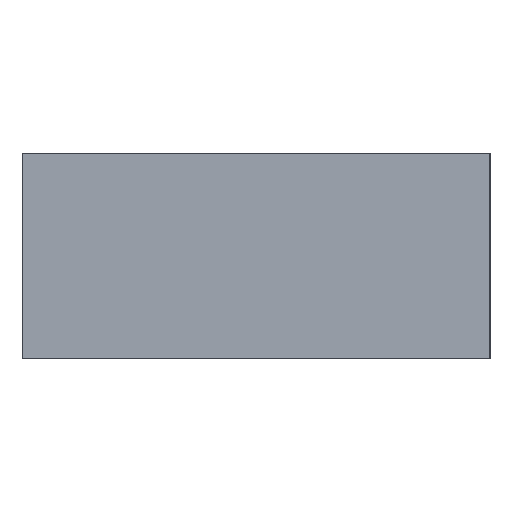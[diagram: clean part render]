
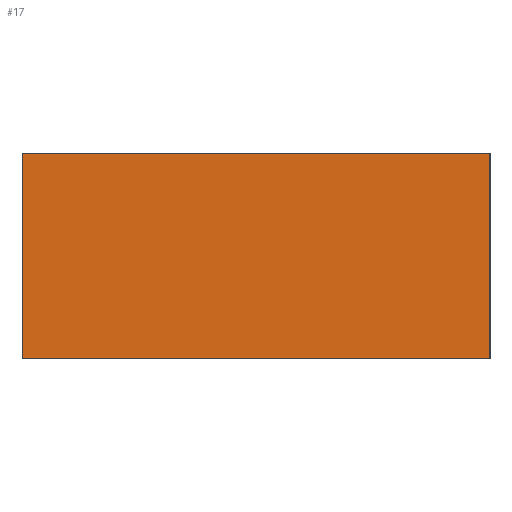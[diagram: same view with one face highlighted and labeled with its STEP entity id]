
A CAD part, left-side view. The second image highlights one B-rep face of the part: STEP entity #17.
In plain terms, the highlighted planar face has unit normal (-1, 0, 0).
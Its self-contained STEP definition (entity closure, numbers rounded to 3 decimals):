
#17 = ADVANCED_FACE('',(#18),#52,.F.);
#18 = FACE_BOUND('',#19,.F.);
#19 = EDGE_LOOP('',(#20,#30,#38,#46));
#20 = ORIENTED_EDGE('',*,*,#21,.F.);
#21 = EDGE_CURVE('',#22,#24,#26,.T.);
#22 = VERTEX_POINT('',#23);
#23 = CARTESIAN_POINT('',(47.,54.,4.8));
#24 = VERTEX_POINT('',#25);
#25 = CARTESIAN_POINT('',(47.,54.,7.));
#26 = LINE('',#27,#28);
#27 = CARTESIAN_POINT('',(47.,54.,4.8));
#28 = VECTOR('',#29,1.);
#29 = DIRECTION('',(0.,0.,1.));
#30 = ORIENTED_EDGE('',*,*,#31,.T.);
#31 = EDGE_CURVE('',#22,#32,#34,.T.);
#32 = VERTEX_POINT('',#33);
#33 = CARTESIAN_POINT('',(47.,59.,4.8));
#34 = LINE('',#35,#36);
#35 = CARTESIAN_POINT('',(47.,54.,4.8));
#36 = VECTOR('',#37,1.);
#37 = DIRECTION('',(0.,1.,0.));
#38 = ORIENTED_EDGE('',*,*,#39,.T.);
#39 = EDGE_CURVE('',#32,#40,#42,.T.);
#40 = VERTEX_POINT('',#41);
#41 = CARTESIAN_POINT('',(47.,59.,7.));
#42 = LINE('',#43,#44);
#43 = CARTESIAN_POINT('',(47.,59.,4.8));
#44 = VECTOR('',#45,1.);
#45 = DIRECTION('',(0.,0.,1.));
#46 = ORIENTED_EDGE('',*,*,#47,.F.);
#47 = EDGE_CURVE('',#24,#40,#48,.T.);
#48 = LINE('',#49,#50);
#49 = CARTESIAN_POINT('',(47.,54.,7.));
#50 = VECTOR('',#51,1.);
#51 = DIRECTION('',(0.,1.,0.));
#52 = PLANE('',#53);
#53 = AXIS2_PLACEMENT_3D('',#54,#55,#56);
#54 = CARTESIAN_POINT('',(47.,54.,4.8));
#55 = DIRECTION('',(1.,0.,0.));
#56 = DIRECTION('',(0.,0.,1.));
